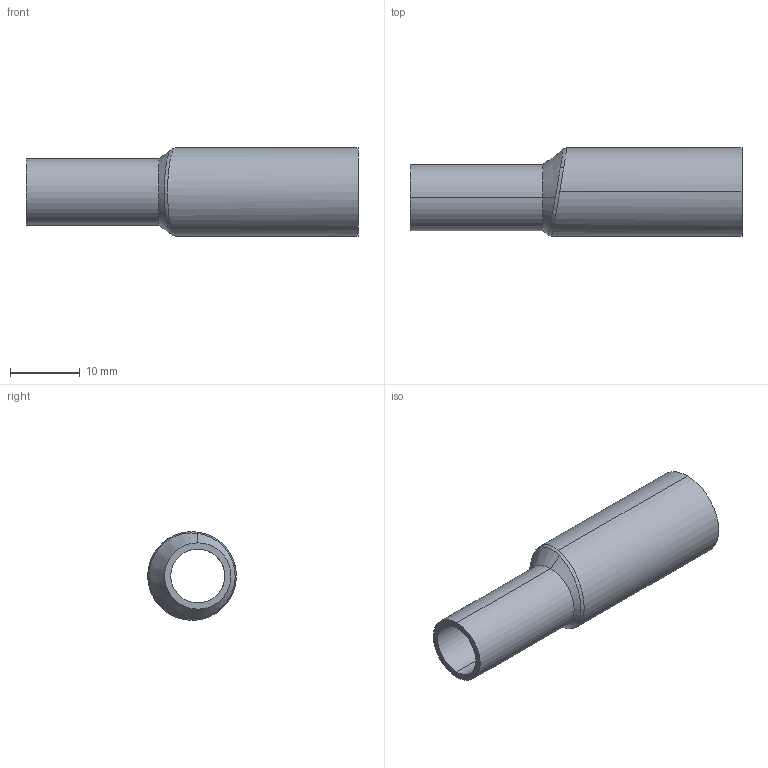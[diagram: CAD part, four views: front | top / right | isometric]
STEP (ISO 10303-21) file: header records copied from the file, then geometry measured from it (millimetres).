
FILE_DESCRIPTION (( 'STEP AP214' ), '1' );
FILE_NAME ('TE32SWW6L.5x.375-...STEP', '2016-06-01T04:50:51', ( 'eran' ), ( '' ), 'SwSTEP 2.0', 'SolidWorks 2016', '' );
FILE_SCHEMA (( 'AUTOMOTIVE_DESIGN' ));
Length unit declared in the file: millimetre
Products named in the file (1): TE32SWW6L.5x.375-..
Bounding box: 47.62 x 12.7 x 12.7 mm (x, y, z)
Volume: 2434.6 mm3; surface area: 3014.5 mm2
Topology: 1 solids, 1 shells, 18 faces, 42 edges, 26 vertices
Faces by surface type: cylinder 8, cone 4, bspline 2, plane 2, torus 2
Entity records: 1006 total; most frequent: CARTESIAN_POINT 576, ORIENTED_EDGE 84, DIRECTION 79, EDGE_CURVE 42, AXIS2_PLACEMENT_3D 34, VERTEX_POINT 26, EDGE_LOOP 20, FACE_OUTER_BOUND 18
